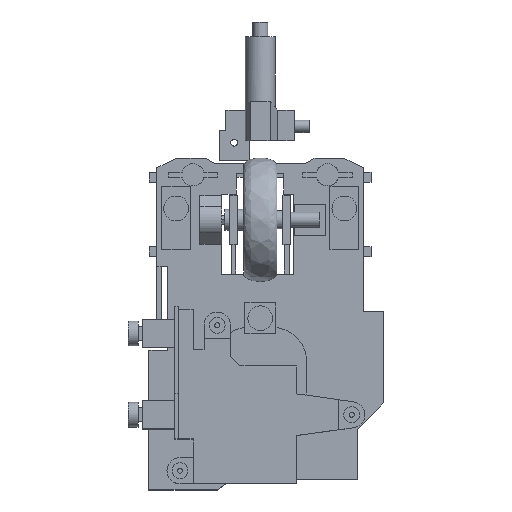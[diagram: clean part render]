
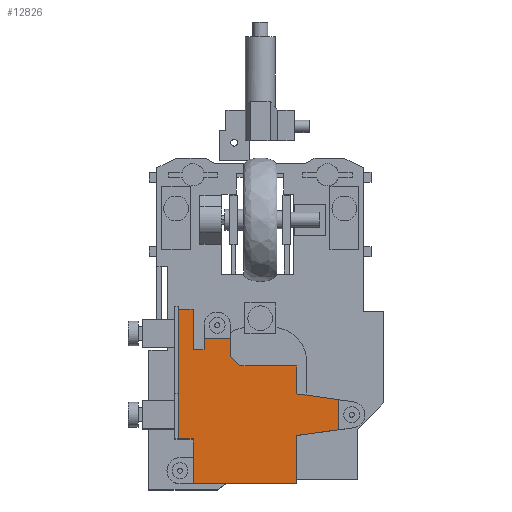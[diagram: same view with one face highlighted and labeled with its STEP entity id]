
A CAD part, top view. The second image highlights one B-rep face of the part: STEP entity #12826.
In plain terms, the highlighted planar face has unit normal (0, 0, 1).
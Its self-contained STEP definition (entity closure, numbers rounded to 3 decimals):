
#224=PLANE('',#13635);
#864=FACE_OUTER_BOUND('',#1609,.T.);
#1609=EDGE_LOOP('',(#9149,#9150,#9151,#9152,#9153,#9154,#9155,#9156,#9157,
#9158,#9159,#9160,#9161,#9162,#9163,#9164,#9165));
#2535=LINE('',#18341,#4168);
#2539=LINE('',#18350,#4172);
#2541=LINE('',#18355,#4174);
#2542=LINE('',#18357,#4175);
#2543=LINE('',#18359,#4176);
#2544=LINE('',#18361,#4177);
#2545=LINE('',#18363,#4178);
#2546=LINE('',#18365,#4179);
#2547=LINE('',#18366,#4180);
#2548=LINE('',#18368,#4181);
#2549=LINE('',#18370,#4182);
#2550=LINE('',#18372,#4183);
#2551=LINE('',#18374,#4184);
#2552=LINE('',#18375,#4185);
#2553=LINE('',#18377,#4186);
#2554=LINE('',#18379,#4187);
#2555=LINE('',#18380,#4188);
#4168=VECTOR('',#14723,10.);
#4172=VECTOR('',#14729,10.);
#4174=VECTOR('',#14733,10.);
#4175=VECTOR('',#14734,10.);
#4176=VECTOR('',#14735,10.);
#4177=VECTOR('',#14736,10.);
#4178=VECTOR('',#14737,10.);
#4179=VECTOR('',#14738,10.);
#4180=VECTOR('',#14739,10.);
#4181=VECTOR('',#14740,10.);
#4182=VECTOR('',#14741,10.);
#4183=VECTOR('',#14742,10.);
#4184=VECTOR('',#14743,10.);
#4185=VECTOR('',#14744,10.);
#4186=VECTOR('',#14745,10.);
#4187=VECTOR('',#14746,10.);
#4188=VECTOR('',#14747,10.);
#6022=VERTEX_POINT('',#18338);
#6023=VERTEX_POINT('',#18340);
#6026=VERTEX_POINT('',#18347);
#6027=VERTEX_POINT('',#18349);
#6028=VERTEX_POINT('',#18353);
#6029=VERTEX_POINT('',#18354);
#6030=VERTEX_POINT('',#18356);
#6031=VERTEX_POINT('',#18358);
#6032=VERTEX_POINT('',#18360);
#6033=VERTEX_POINT('',#18362);
#6034=VERTEX_POINT('',#18364);
#6035=VERTEX_POINT('',#18367);
#6036=VERTEX_POINT('',#18369);
#6037=VERTEX_POINT('',#18371);
#6038=VERTEX_POINT('',#18373);
#6039=VERTEX_POINT('',#18376);
#6040=VERTEX_POINT('',#18378);
#7264=EDGE_CURVE('',#6023,#6022,#2535,.T.);
#7268=EDGE_CURVE('',#6027,#6026,#2539,.T.);
#7270=EDGE_CURVE('',#6028,#6029,#2541,.T.);
#7271=EDGE_CURVE('',#6030,#6029,#2542,.T.);
#7272=EDGE_CURVE('',#6030,#6031,#2543,.T.);
#7273=EDGE_CURVE('',#6031,#6032,#2544,.T.);
#7274=EDGE_CURVE('',#6032,#6033,#2545,.T.);
#7275=EDGE_CURVE('',#6033,#6034,#2546,.T.);
#7276=EDGE_CURVE('',#6034,#6027,#2547,.T.);
#7277=EDGE_CURVE('',#6026,#6035,#2548,.T.);
#7278=EDGE_CURVE('',#6035,#6036,#2549,.T.);
#7279=EDGE_CURVE('',#6036,#6037,#2550,.T.);
#7280=EDGE_CURVE('',#6037,#6038,#2551,.T.);
#7281=EDGE_CURVE('',#6038,#6023,#2552,.T.);
#7282=EDGE_CURVE('',#6022,#6039,#2553,.T.);
#7283=EDGE_CURVE('',#6039,#6040,#2554,.T.);
#7284=EDGE_CURVE('',#6040,#6028,#2555,.T.);
#9149=ORIENTED_EDGE('',*,*,#7270,.T.);
#9150=ORIENTED_EDGE('',*,*,#7271,.F.);
#9151=ORIENTED_EDGE('',*,*,#7272,.T.);
#9152=ORIENTED_EDGE('',*,*,#7273,.T.);
#9153=ORIENTED_EDGE('',*,*,#7274,.T.);
#9154=ORIENTED_EDGE('',*,*,#7275,.T.);
#9155=ORIENTED_EDGE('',*,*,#7276,.T.);
#9156=ORIENTED_EDGE('',*,*,#7268,.T.);
#9157=ORIENTED_EDGE('',*,*,#7277,.T.);
#9158=ORIENTED_EDGE('',*,*,#7278,.T.);
#9159=ORIENTED_EDGE('',*,*,#7279,.T.);
#9160=ORIENTED_EDGE('',*,*,#7280,.T.);
#9161=ORIENTED_EDGE('',*,*,#7281,.T.);
#9162=ORIENTED_EDGE('',*,*,#7264,.T.);
#9163=ORIENTED_EDGE('',*,*,#7282,.T.);
#9164=ORIENTED_EDGE('',*,*,#7283,.T.);
#9165=ORIENTED_EDGE('',*,*,#7284,.T.);
#12826=ADVANCED_FACE('',(#864),#224,.T.);
#13635=AXIS2_PLACEMENT_3D('',#18352,#14731,#14732);
#14723=DIRECTION('',(-1.,0.,0.));
#14729=DIRECTION('',(0.,1.,0.));
#14731=DIRECTION('center_axis',(0.,0.,1.));
#14732=DIRECTION('ref_axis',(1.,0.,0.));
#14733=DIRECTION('',(-1.,0.,0.));
#14734=DIRECTION('',(0.,1.,0.));
#14735=DIRECTION('',(1.,0.,0.));
#14736=DIRECTION('',(0.,-1.,0.));
#14737=DIRECTION('',(1.,0.,0.));
#14738=DIRECTION('',(0.,1.,0.));
#14739=DIRECTION('',(0.991,0.135,0.));
#14740=DIRECTION('',(-0.991,0.137,0.));
#14741=DIRECTION('',(0.,1.,0.));
#14742=DIRECTION('',(-1.,0.,0.));
#14743=DIRECTION('',(-0.707,0.707,0.));
#14744=DIRECTION('',(0.,1.,0.));
#14745=DIRECTION('',(0.,-1.,0.));
#14746=DIRECTION('',(-1.,0.,0.));
#14747=DIRECTION('',(0.,1.,0.));
#18338=CARTESIAN_POINT('',(-11.35,8.05,17.));
#18340=CARTESIAN_POINT('',(-6.05,8.05,17.));
#18341=CARTESIAN_POINT('',(-3.2,8.05,17.));
#18347=CARTESIAN_POINT('',(15.85,-4.357,17.));
#18349=CARTESIAN_POINT('',(15.85,-10.435,17.));
#18350=CARTESIAN_POINT('',(15.85,-7.08,17.));
#18352=CARTESIAN_POINT('Origin',(-0.35,-3.725,17.));
#18353=CARTESIAN_POINT('',(-13.55,13.9,17.));
#18354=CARTESIAN_POINT('',(-16.55,13.9,17.));
#18355=CARTESIAN_POINT('',(-6.95,13.9,17.));
#18356=CARTESIAN_POINT('',(-16.55,-12.3,17.));
#18357=CARTESIAN_POINT('',(-16.55,-1.3,17.));
#18358=CARTESIAN_POINT('',(-13.55,-12.3,17.));
#18359=CARTESIAN_POINT('',(-8.45,-12.3,17.));
#18360=CARTESIAN_POINT('',(-13.55,-21.35,17.));
#18361=CARTESIAN_POINT('',(-13.55,-8.013,17.));
#18362=CARTESIAN_POINT('',(7.4,-21.35,17.));
#18363=CARTESIAN_POINT('',(-6.95,-21.35,17.));
#18364=CARTESIAN_POINT('',(7.4,-11.585,17.));
#18365=CARTESIAN_POINT('',(7.4,-12.538,17.));
#18366=CARTESIAN_POINT('',(4.121,-12.031,17.));
#18367=CARTESIAN_POINT('',(7.4,-3.185,17.));
#18368=CARTESIAN_POINT('',(7.86,-3.249,17.));
#18369=CARTESIAN_POINT('',(7.4,2.45,17.));
#18370=CARTESIAN_POINT('',(7.4,-3.455,17.));
#18371=CARTESIAN_POINT('',(-4.1,2.45,17.));
#18372=CARTESIAN_POINT('',(3.525,2.45,17.));
#18373=CARTESIAN_POINT('',(-6.05,4.4,17.));
#18374=CARTESIAN_POINT('',(-1.619,-0.031,17.));
#18375=CARTESIAN_POINT('',(-6.05,0.338,17.));
#18376=CARTESIAN_POINT('',(-11.35,5.7,17.));
#18377=CARTESIAN_POINT('',(-11.35,2.163,17.));
#18378=CARTESIAN_POINT('',(-13.55,5.7,17.));
#18379=CARTESIAN_POINT('',(-5.85,5.7,17.));
#18380=CARTESIAN_POINT('',(-13.55,0.987,17.));
